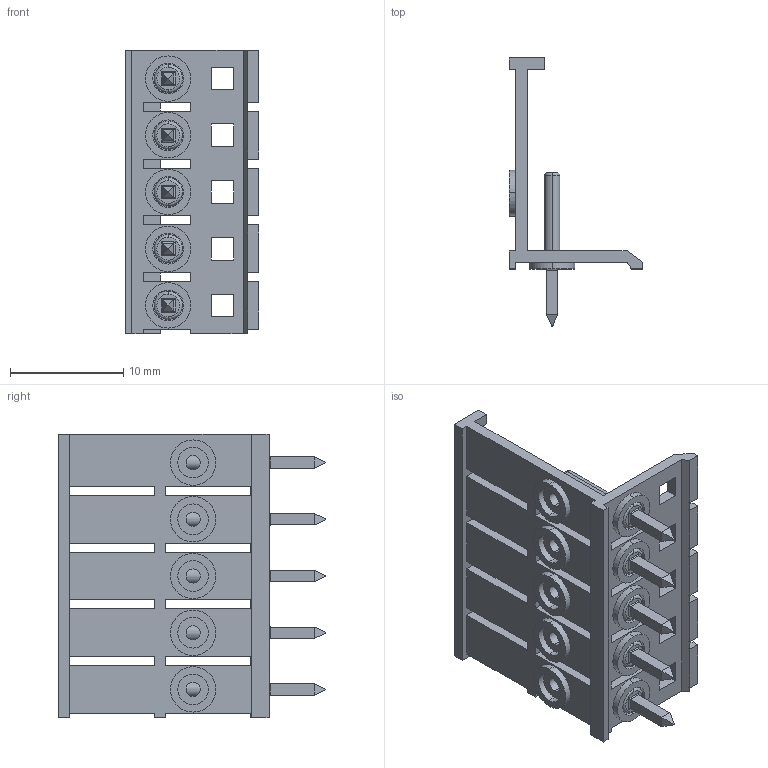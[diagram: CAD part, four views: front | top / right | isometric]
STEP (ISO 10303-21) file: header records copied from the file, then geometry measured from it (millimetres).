
FILE_DESCRIPTION (( 'STEP AP214' ), '1' );
FILE_NAME ('971-FBSP-05.STEP', '2008-02-15T00:56:17', ( ' ' ), ( '' ), 'SwSTEP 2.0', 'SolidWorks 2007', '' );
FILE_SCHEMA (( 'AUTOMOTIVE_DESIGN' ));
Length unit declared in the file: millimetre
Products named in the file (1): 971-FBSP-05
Bounding box: 11.8 x 23.6 x 25 mm (x, y, z)
Volume: 776.5 mm3; surface area: 2111.2 mm2
Topology: 1 solids, 1 shells, 326 faces, 814 edges, 514 vertices
Faces by surface type: plane 216, cylinder 80, bspline 30
Entity records: 10999 total; most frequent: CARTESIAN_POINT 3424, ORIENTED_EDGE 1628, DIRECTION 1428, EDGE_CURVE 814, VECTOR 594, LINE 594, VERTEX_POINT 514, AXIS2_PLACEMENT_3D 417
